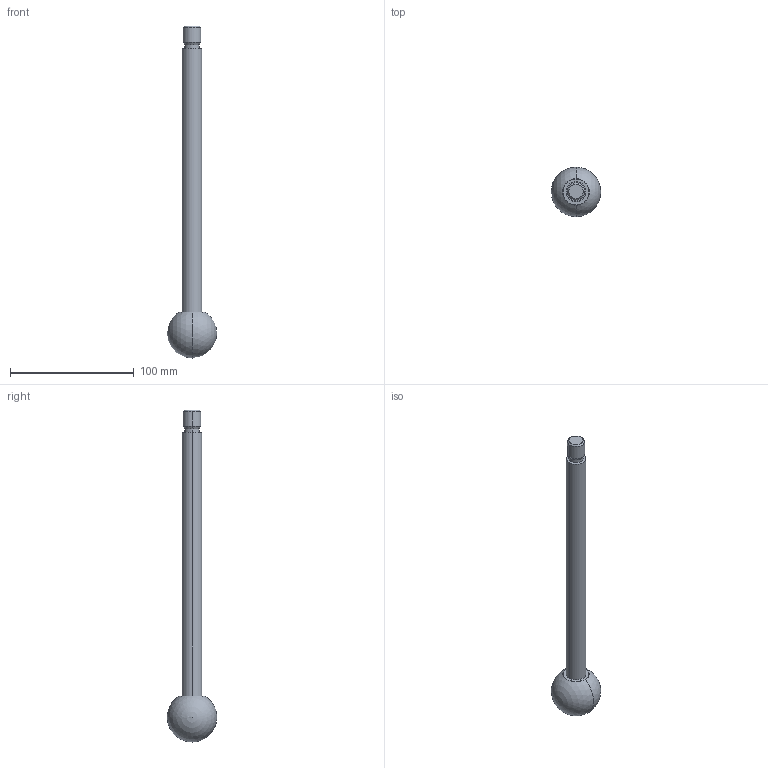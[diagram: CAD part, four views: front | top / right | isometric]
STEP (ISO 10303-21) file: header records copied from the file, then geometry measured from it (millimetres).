
FILE_DESCRIPTION (( 'STEP AP214' ), '1' );
FILE_NAME ('310-16-250-A-NI.step', '2023-08-07T10:13:58', ( '' ), ( '' ), 'SwSTEP 2.0', 'SolidWorks 2022', '' );
FILE_SCHEMA (( 'AUTOMOTIVE_DESIGN' ));
Length unit declared in the file: millimetre
Products named in the file (1): 310-16-250-A-NI
Bounding box: 40 x 39.99 x 268 mm (x, y, z)
Volume: 78357.2 mm3; surface area: 16496 mm2
Topology: 1 solids, 1 shells, 17 faces, 39 edges, 24 vertices
Faces by surface type: cylinder 6, cone 4, plane 3, torus 2, sphere 2
Entity records: 541 total; most frequent: DIRECTION 94, CARTESIAN_POINT 73, ORIENTED_EDGE 68, AXIS2_PLACEMENT_3D 42, EDGE_CURVE 34, CIRCLE 24, VERTEX_POINT 21, EDGE_LOOP 19
